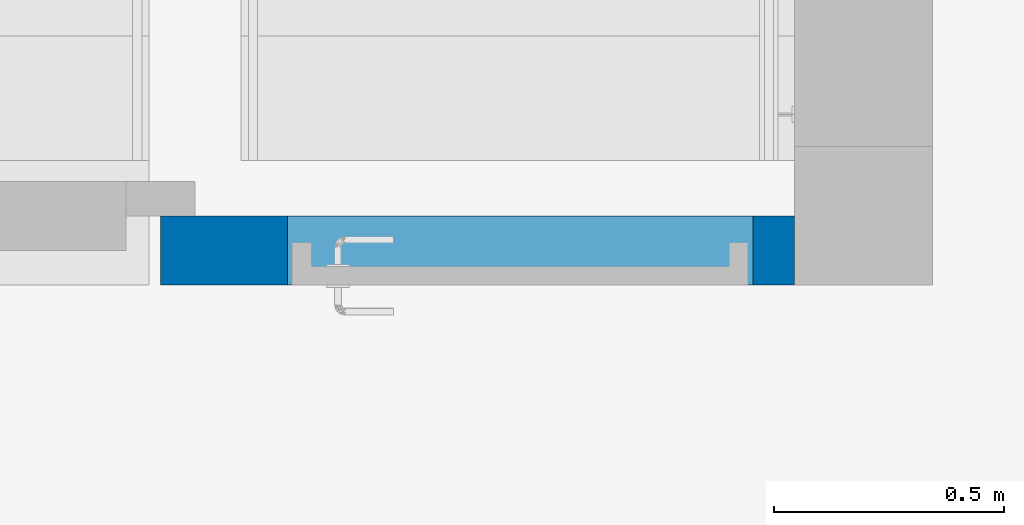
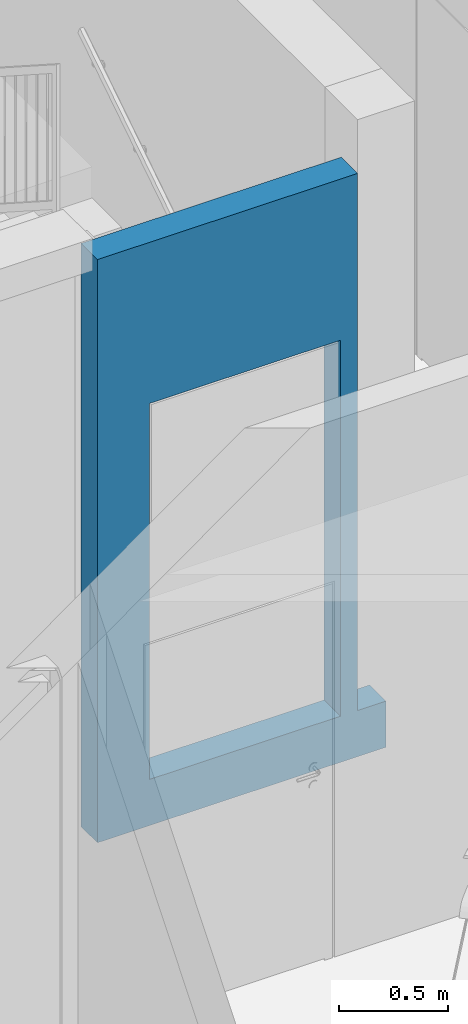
# One storey, part 18 of 58: 1 wall, 1 opening.
"""IFC2X3 building model written with IfcOpenShell, lengths in millimetres."""

from ifc_helpers import new_model, entity, si_unit, converted_unit, derived_unit, direction, frame, frame_2d, origin, place, context, subcontext, project, spatial, polyline, rectangle, extrude, clip, bounded_halfspace, material, layer, layer_set, layer_usage, type_object, element, save


model = new_model("IFC2X3")

# Units and contexts
model_context = context("Model", 3, precision=0.01, world=origin(), true_north=direction((0.7716245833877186, 0.6360782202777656)))
body_context = subcontext(model_context, "Body", "Model", "MODEL_VIEW")
ifc_project = project(units=[si_unit("LENGTHUNIT", "METRE", prefix="MILLI"), si_unit("AREAUNIT", "SQUARE_METRE"), converted_unit("PLANEANGLEUNIT", "DEGREE", entity("IfcPlaneAngleMeasure", 0.017453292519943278), si_unit("PLANEANGLEUNIT", "RADIAN"), dimensions=[0, 0, 0, 0, 0, 0, 0]), derived_unit("THERMALTRANSMITTANCEUNIT", [(si_unit("MASSUNIT", "GRAM", prefix="KILO"), 1), (si_unit("THERMODYNAMICTEMPERATUREUNIT", "KELVIN"), -1), (si_unit("TIMEUNIT", "SECOND"), -3)])], contexts=[model_context])

# Site, building, storey
site_placement = place(None, origin())
site = spatial("IfcSite", under=ifc_project, at=site_placement, Name="Default", CompositionType="ELEMENT")
building_placement = place(site_placement, origin())
building = spatial("IfcBuilding", under=site, at=building_placement, CompositionType="ELEMENT")
storey_placement = place(building_placement, frame((0.0, 0.0, 31140.0)))
storey = spatial("IfcBuildingStorey", under=building, at=storey_placement, Name="PLAN U1", CompositionType="ELEMENT", Elevation=31140.000000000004)

# Wall, opening
ifc_material_1 = material(Name="Gips")
ifc_layer_1 = layer(ifc_material_1, 12.5)
ifc_layer_2 = layer(ifc_material_1, 12.5)
ifc_material_2 = material(Name="Stender isolert")
ifc_layer_3 = layer(ifc_material_2, 100.0)
ifc_layer_4 = layer(ifc_material_1, 12.5)
ifc_layer_5 = layer(ifc_material_1, 12.5)
ifc_layer_set = layer_set([ifc_layer_1, ifc_layer_2, ifc_layer_3, ifc_layer_4, ifc_layer_5], Name="Basic Wall:242 IV01 Innervegg 150 mm")
ifc_layer_usage = layer_usage(ifc_layer_set, "AXIS2", "NEGATIVE", 75.0)
wall_type = type_object("IfcWallType", Name="Basic Wall:242 IV01 Innervegg 150 mm", PredefinedType="STANDARD", material=ifc_layer_set)
wall_placement = place(storey_placement, frame((269242.924446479, 59240.25555007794, -257.68567719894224)))
wall = element("IfcWallStandardCase", 1, at=wall_placement, inside=storey, type_object=wall_type, material=ifc_layer_usage, Name="Basic Wall:242 IV01 Innervegg 150 mm", ObjectType="Basic Wall:242 IV01 Innervegg 150 mm", context=body_context, shape_type="Clipping", body=[
    clip(clip(extrude(rectangle(XDim=1524.9999999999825, YDim=150.00000000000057, at=frame_2d((762.4999999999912, -1.7834622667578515e-12), x_axis=(-1.0, 0.0))), origin(), (0.0, 0.0, 1.0), 3257.68567719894), bounded_halfspace(frame((1375.0, 75.0, 257.68567719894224), z_axis=(0.0, 0.0, -1.0), x_axis=(1.0, 0.0, 0.0)), True, frame((1375.0, 75.0, 257.68567719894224), z_axis=(0.0, 0.0, -1.0), x_axis=(1.0, 0.0, 0.0)), polyline([(0.0, 0.0), (150.0, 0.0), (150.0, 150.0), (0.0, 150.0), (0.0, 0.0)]))), bounded_halfspace(frame((1375.0, -75.0, 257.68567719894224), z_axis=(-1.0, 0.0, 0.0), x_axis=(0.0, 0.0, -1.0)), True, frame((1375.0, -75.0, 257.68567719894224), z_axis=(-1.0, 0.0, 0.0), x_axis=(0.0, 0.0, -1.0)), polyline([(0.0, 0.0), (-914400.0, 0.0), (-914400.0, -45720.0), (0.0, -45720.0), (0.0, 0.0)]))),
])
opening_placement = place(wall_placement, frame((1285.0, 75.0, 257.68567719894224)))
element("IfcOpeningElement", 2, at=opening_placement, cuts=wall, Name="Enfløyet:244 Innvendig AAa 10x21M - Tett:1", ObjectType="Opening", context=body_context, shape_type="SweptSolid", body=[
    extrude(rectangle(XDim=2100.0, YDim=1009.9999999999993, at=frame_2d((1049.9999999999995, 505.0000000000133), x_axis=(1.0, 0.0))), frame((0.0, 0.0, 0.0), z_axis=(0.0, -1.0, 0.0), x_axis=(0.0, 0.0, 1.0)), (0.0, 0.0, 1.0), 150.0),
])

save(model, "model.ifc")
